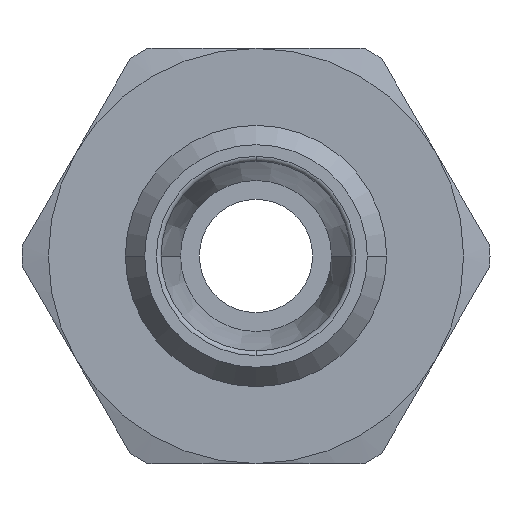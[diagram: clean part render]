
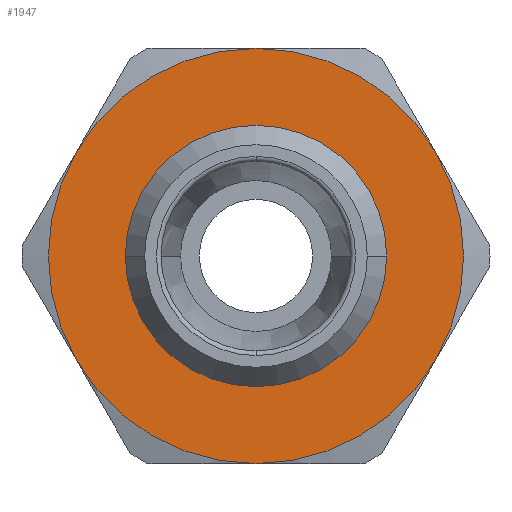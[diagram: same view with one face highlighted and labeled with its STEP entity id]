
A CAD part, left-side view. The second image highlights one B-rep face of the part: STEP entity #1947.
In plain terms, the highlighted planar face has unit normal (-1, 0, 0) as drawn and (0, 0, 1) by its records, which use the part's own axes.
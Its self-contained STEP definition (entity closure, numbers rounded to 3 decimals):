
#857=CARTESIAN_POINT('',(-6.8,0.,3.0));
#858=VERTEX_POINT('',#857);
#884=CARTESIAN_POINT('',(6.8,0.,3.0));
#885=VERTEX_POINT('',#884);
#893=CARTESIAN_POINT('',(0.,0.,3.0));
#894=DIRECTION('',(0.0,0.0,1.0));
#895=DIRECTION('',(-1.0,0.0,0.0));
#896=AXIS2_PLACEMENT_3D('',#893,#894,#895);
#897=CIRCLE('',#896,6.8);
#898=EDGE_CURVE('',#885,#858,#897,.T.);
#1827=CARTESIAN_POINT('',(0.,-6.8,3.));
#1828=VERTEX_POINT('',#1827);
#1829=CARTESIAN_POINT('',(0.,0.,3.0));
#1830=DIRECTION('',(0.0,0.0,1.0));
#1831=DIRECTION('',(-1.0,0.0,0.0));
#1832=AXIS2_PLACEMENT_3D('',#1829,#1830,#1831);
#1833=CIRCLE('',#1832,6.8);
#1834=EDGE_CURVE('',#858,#1828,#1833,.T.);
#1836=CARTESIAN_POINT('',(0.,0.,3.0));
#1837=DIRECTION('',(0.0,0.0,1.0));
#1838=DIRECTION('',(-1.0,0.0,0.0));
#1839=AXIS2_PLACEMENT_3D('',#1836,#1837,#1838);
#1840=CIRCLE('',#1839,6.8);
#1841=EDGE_CURVE('',#1828,#885,#1840,.T.);
#1881=CARTESIAN_POINT('',(0.,0.,3.0));
#1882=DIRECTION('',(0.0,0.0,1.0));
#1883=DIRECTION('',(1.0,0.0,0.0));
#1884=AXIS2_PLACEMENT_3D('',#1881,#1882,#1883);
#1885=PLANE('',#1884);
#1886=CARTESIAN_POINT('',(5.5,-9.526,3.));
#1887=VERTEX_POINT('',#1886);
#1888=CARTESIAN_POINT('',(11.,0.0,3.));
#1889=VERTEX_POINT('',#1888);
#1890=CARTESIAN_POINT('',(0.,0.0,3.0));
#1891=DIRECTION('',(0.0,0.0,1.0));
#1892=DIRECTION('',(1.0,0.0,0.0));
#1893=AXIS2_PLACEMENT_3D('',#1890,#1891,#1892);
#1894=CIRCLE('',#1893,11.);
#1895=EDGE_CURVE('',#1887,#1889,#1894,.T.);
#1896=ORIENTED_EDGE('',*,*,#1895,.T.);
#1897=CARTESIAN_POINT('',(5.5,9.526,3.));
#1898=VERTEX_POINT('',#1897);
#1899=CARTESIAN_POINT('',(0.,0.0,3.0));
#1900=DIRECTION('',(0.0,0.0,1.0));
#1901=DIRECTION('',(1.0,0.0,0.0));
#1902=AXIS2_PLACEMENT_3D('',#1899,#1900,#1901);
#1903=CIRCLE('',#1902,11.);
#1904=EDGE_CURVE('',#1889,#1898,#1903,.T.);
#1905=ORIENTED_EDGE('',*,*,#1904,.T.);
#1906=CARTESIAN_POINT('',(-5.5,9.526,3.));
#1907=VERTEX_POINT('',#1906);
#1908=CARTESIAN_POINT('',(0.,0.0,3.0));
#1909=DIRECTION('',(0.0,0.0,1.0));
#1910=DIRECTION('',(1.0,0.0,0.0));
#1911=AXIS2_PLACEMENT_3D('',#1908,#1909,#1910);
#1912=CIRCLE('',#1911,11.);
#1913=EDGE_CURVE('',#1898,#1907,#1912,.T.);
#1914=ORIENTED_EDGE('',*,*,#1913,.T.);
#1915=CARTESIAN_POINT('',(-11.0,0.,3.));
#1916=VERTEX_POINT('',#1915);
#1917=CARTESIAN_POINT('',(0.,0.0,3.0));
#1918=DIRECTION('',(0.0,0.0,1.0));
#1919=DIRECTION('',(1.0,0.0,0.0));
#1920=AXIS2_PLACEMENT_3D('',#1917,#1918,#1919);
#1921=CIRCLE('',#1920,11.);
#1922=EDGE_CURVE('',#1907,#1916,#1921,.T.);
#1923=ORIENTED_EDGE('',*,*,#1922,.T.);
#1924=CARTESIAN_POINT('',(-5.5,-9.526,3.));
#1925=VERTEX_POINT('',#1924);
#1926=CARTESIAN_POINT('',(0.,0.0,3.0));
#1927=DIRECTION('',(0.0,0.0,1.0));
#1928=DIRECTION('',(1.0,0.0,0.0));
#1929=AXIS2_PLACEMENT_3D('',#1926,#1927,#1928);
#1930=CIRCLE('',#1929,11.);
#1931=EDGE_CURVE('',#1916,#1925,#1930,.T.);
#1932=ORIENTED_EDGE('',*,*,#1931,.T.);
#1933=CARTESIAN_POINT('',(0.,0.0,3.0));
#1934=DIRECTION('',(0.0,0.0,1.0));
#1935=DIRECTION('',(1.0,0.0,0.0));
#1936=AXIS2_PLACEMENT_3D('',#1933,#1934,#1935);
#1937=CIRCLE('',#1936,11.);
#1938=EDGE_CURVE('',#1925,#1887,#1937,.T.);
#1939=ORIENTED_EDGE('',*,*,#1938,.T.);
#1940=EDGE_LOOP('',(#1896,#1905,#1914,#1923,#1932,#1939));
#1941=FACE_OUTER_BOUND('',#1940,.T.);
#1942=ORIENTED_EDGE('',*,*,#1841,.F.);
#1943=ORIENTED_EDGE('',*,*,#1834,.F.);
#1944=ORIENTED_EDGE('',*,*,#898,.F.);
#1945=EDGE_LOOP('',(#1942,#1943,#1944));
#1946=FACE_BOUND('',#1945,.T.);
#1947=ADVANCED_FACE('',(#1941,#1946),#1885,.T.);
